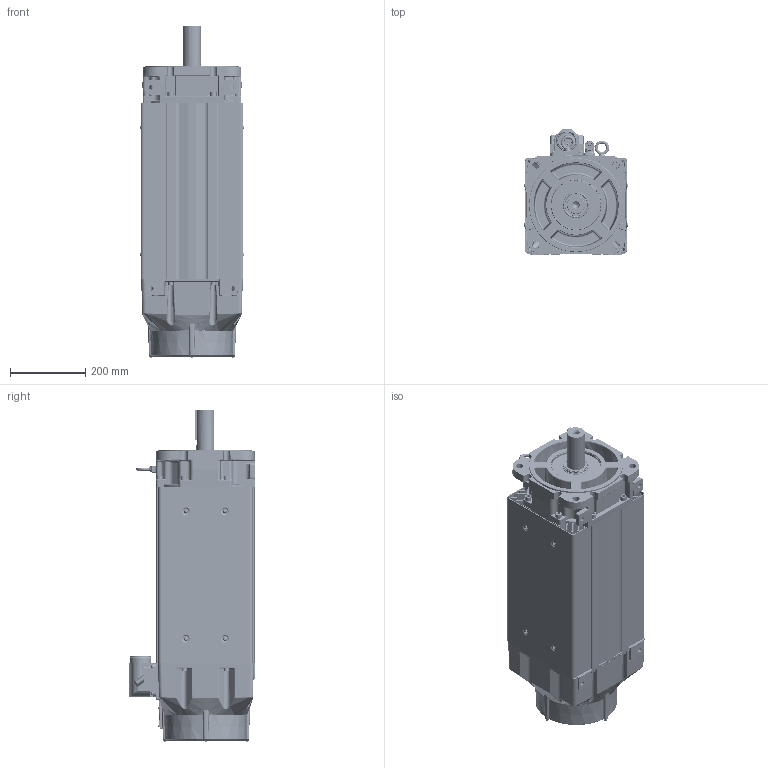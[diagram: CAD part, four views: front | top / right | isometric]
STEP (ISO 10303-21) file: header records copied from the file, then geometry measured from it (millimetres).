
FILE_DESCRIPTION((''),'2;1');
FILE_NAME('VPC-B3004A-SJ74FX_ASM','2016-09-27T',('SRGaddam'),('Rockwell Automation'),'PRO/ENGINEER BY PARAMETRIC TECHNOLOGY CORPORATION, 2012480','PRO/ENGINEER BY PARAMETRIC TECHNOLOGY CORPORATION, 2012480','');
FILE_SCHEMA(('CONFIG_CONTROL_DESIGN'));
Products named in the file (40): 10001404634_AF0; 10001404629_AF6; 10001404635_ASM; 10001585735; 10001441960; 10001737030; 10001448102; 10001587021; 10001405269_AF71; 10001405240_AF78; 10001405370_ASM; 10001946256; 10001956852; 10001989665; 10001713549_ASM; M4X7X14-SOCHD-CAP-SCR; 10001978970; 10001336508; 10001587431; CH4X063; 10001299929; 10001284567; 10000172464; 10001445961; 221404-Q12; 10000231113; 10002279234; 10001443420_ASM; 10001609981; 0002-5004; 10001586887; 10001439772; 0011-2084; M58; 10001586879; 142414_623; 135798_623; 142414-1_623_ASM; M623_ASM; VPC-B3004A-SJ74FX_ASM
Assembly tree (78 placements, depth 4):
  VPC-B3004A-SJ74FX_ASM
    10001404635_ASM
      10001404634_AF0
      10001404629_AF6
    10001585735  x8
    10001441960
    10001737030
    10001448102  x2
    10001587021  x8
    10001405370_ASM
      10001405269_AF71
      10001405240_AF78
    10001443420_ASM
      10001946256
      10001713549_ASM
        10001956852
        10001989665
      M4X7X14-SOCHD-CAP-SCR  x4
      10001978970
      10001336508
      10001587431
      CH4X063  x2
      10001299929
      10001284567
      10000172464  x4
      10001445961
      221404-Q12  x5
      10000231113
      10002279234
    10001609981
    0002-5004  x2
    10001586887  x6
    10001439772
    0011-2084
    M58
    10001586879  x4
    M623_ASM
      142414-1_623_ASM
        142414_623
        135798_623
      10000172464  x4
Bounding box: 275.91 x 335.29 x 882.35 mm (x, y, z)
Volume: 14086184 mm3; surface area: 3602572.5 mm2
Topology: 84 solids, 85 shells, 7977 faces, 19044 edges, 11513 vertices
Faces by surface type: cylinder 2471, plane 2366, bspline 1169, cone 1149, torus 662, sphere 139, extrusion 21
Entity records: 229411 total; most frequent: CARTESIAN_POINT 94368, ORIENTED_EDGE 28820, DIRECTION 26929, EDGE_CURVE 14410, AXIS2_PLACEMENT_3D 10316, VERTEX_POINT 8948, EDGE_LOOP 6456, VECTOR 6297
